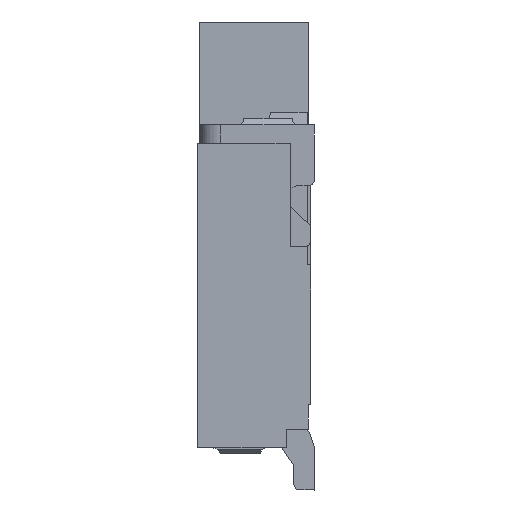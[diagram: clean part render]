
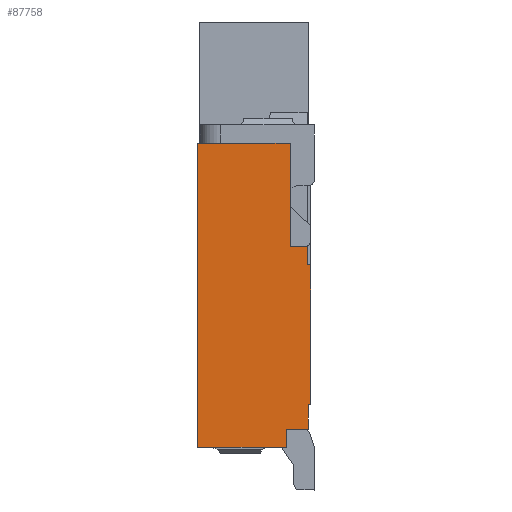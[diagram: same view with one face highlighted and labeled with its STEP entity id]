
A CAD part, left-side view. The second image highlights one B-rep face of the part: STEP entity #87758.
In plain terms, the highlighted planar face has unit normal (-1, 0, 0).
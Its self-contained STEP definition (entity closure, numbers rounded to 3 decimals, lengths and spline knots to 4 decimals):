
#31756=DIRECTION('',(0.,0.,1.));
#31757=VECTOR('',#31756,0.85);
#31758=CARTESIAN_POINT('',(0.04,0.17,-1.1));
#31759=LINE('',#31758,#31757);
#31780=DIRECTION('',(0.,1.,0.));
#31781=VECTOR('',#31780,0.14);
#31782=CARTESIAN_POINT('',(0.04,0.03,-1.1));
#31783=LINE('',#31782,#31781);
#31929=DIRECTION('',(0.,0.,1.));
#31930=VECTOR('',#31929,0.15);
#31931=CARTESIAN_POINT('',(0.04,0.03,-1.25));
#31932=LINE('',#31931,#31930);
#32015=DIRECTION('',(0.,1.,0.));
#32016=VECTOR('',#32015,0.03);
#32017=CARTESIAN_POINT('',(0.04,0.,-1.25));
#32018=LINE('',#32017,#32016);
#32027=DIRECTION('',(0.,0.,-1.));
#32028=VECTOR('',#32027,1.15);
#32029=CARTESIAN_POINT('',(0.04,0.,-1.25));
#32030=LINE('',#32029,#32028);
#32031=DIRECTION('',(0.,1.,0.));
#32032=VECTOR('',#32031,0.02);
#32033=CARTESIAN_POINT('',(0.04,0.,-2.4));
#32034=LINE('',#32033,#32032);
#32035=DIRECTION('',(0.,1.,0.));
#32036=VECTOR('',#32035,0.18);
#32037=CARTESIAN_POINT('',(0.04,0.02,-2.6));
#32038=LINE('',#32037,#32036);
#32039=DIRECTION('',(0.,1.,0.));
#32040=VECTOR('',#32039,0.73);
#32041=CARTESIAN_POINT('',(0.04,0.2,-2.75));
#32042=LINE('',#32041,#32040);
#32043=DIRECTION('',(0.,0.,1.));
#32044=VECTOR('',#32043,2.5);
#32045=CARTESIAN_POINT('',(0.04,0.93,-2.75));
#32046=LINE('',#32045,#32044);
#32099=DIRECTION('',(0.,0.,1.));
#32100=VECTOR('',#32099,0.2);
#32101=CARTESIAN_POINT('',(0.04,0.02,-2.6));
#32102=LINE('',#32101,#32100);
#32115=DIRECTION('',(0.,0.,1.));
#32116=VECTOR('',#32115,0.15);
#32117=CARTESIAN_POINT('',(0.04,0.2,-2.75));
#32118=LINE('',#32117,#32116);
#32741=DIRECTION('',(0.,1.,0.));
#32742=VECTOR('',#32741,0.76);
#32743=CARTESIAN_POINT('',(0.04,0.17,-0.25));
#32744=LINE('',#32743,#32742);
#58061=CARTESIAN_POINT('',(0.04,0.02,-2.4));
#58062=VERTEX_POINT('',#58061);
#58063=CARTESIAN_POINT('',(0.04,0.,-2.4));
#58064=VERTEX_POINT('',#58063);
#58065=CARTESIAN_POINT('',(0.04,0.,-1.25));
#58066=VERTEX_POINT('',#58065);
#58067=CARTESIAN_POINT('',(0.04,0.02,-2.6));
#58068=VERTEX_POINT('',#58067);
#58069=CARTESIAN_POINT('',(0.04,0.2,-2.6));
#58070=VERTEX_POINT('',#58069);
#58071=CARTESIAN_POINT('',(0.04,0.03,-1.25));
#58072=CARTESIAN_POINT('',(0.04,0.03,-1.1));
#58073=VERTEX_POINT('',#58071);
#58074=VERTEX_POINT('',#58072);
#58075=CARTESIAN_POINT('',(0.04,0.17,-1.1));
#58076=VERTEX_POINT('',#58075);
#58077=CARTESIAN_POINT('',(0.04,0.17,-0.25));
#58078=VERTEX_POINT('',#58077);
#58079=CARTESIAN_POINT('',(0.04,0.2,-2.75));
#58080=VERTEX_POINT('',#58079);
#58081=CARTESIAN_POINT('',(0.04,0.93,-0.25));
#58082=VERTEX_POINT('',#58081);
#58083=CARTESIAN_POINT('',(0.04,0.93,-2.75));
#58084=VERTEX_POINT('',#58083);
#87734=CARTESIAN_POINT('',(0.04,0.48,-1.5));
#87735=DIRECTION('',(1.,0.,0.));
#87736=DIRECTION('',(0.,0.,1.));
#87737=AXIS2_PLACEMENT_3D('',#87734,#87735,#87736);
#87738=PLANE('',#87737);
#87739=ORIENTED_EDGE('',*,*,#87606,.F.);
#87740=ORIENTED_EDGE('',*,*,#87727,.F.);
#87741=ORIENTED_EDGE('',*,*,#63280,.T.);
#87743=ORIENTED_EDGE('',*,*,#87742,.T.);
#87745=ORIENTED_EDGE('',*,*,#87744,.F.);
#87746=ORIENTED_EDGE('',*,*,#58275,.T.);
#87748=ORIENTED_EDGE('',*,*,#87747,.F.);
#87750=ORIENTED_EDGE('',*,*,#87749,.T.);
#87751=ORIENTED_EDGE('',*,*,#82726,.T.);
#87753=ORIENTED_EDGE('',*,*,#87752,.F.);
#87754=ORIENTED_EDGE('',*,*,#87421,.F.);
#87755=ORIENTED_EDGE('',*,*,#87445,.F.);
#87756=EDGE_LOOP('',(#87739,#87740,#87741,#87743,#87745,#87746,#87748,#87750,
#87751,#87753,#87754,#87755));
#87757=FACE_OUTER_BOUND('',#87756,.F.);
#58275=EDGE_CURVE('',#58068,#58070,#32038,.T.);
#63280=EDGE_CURVE('',#58066,#58064,#32030,.T.);
#82726=EDGE_CURVE('',#58084,#58082,#32046,.T.);
#87421=EDGE_CURVE('',#58076,#58078,#31759,.T.);
#87445=EDGE_CURVE('',#58074,#58076,#31783,.T.);
#87606=EDGE_CURVE('',#58073,#58074,#31932,.T.);
#87727=EDGE_CURVE('',#58066,#58073,#32018,.T.);
#87742=EDGE_CURVE('',#58064,#58062,#32034,.T.);
#87744=EDGE_CURVE('',#58068,#58062,#32102,.T.);
#87747=EDGE_CURVE('',#58080,#58070,#32118,.T.);
#87749=EDGE_CURVE('',#58080,#58084,#32042,.T.);
#87752=EDGE_CURVE('',#58078,#58082,#32744,.T.);
#87758=ADVANCED_FACE('',(#87757),#87738,.F.);
